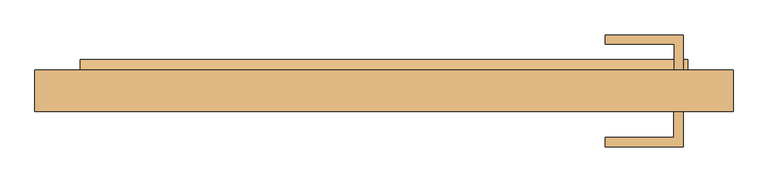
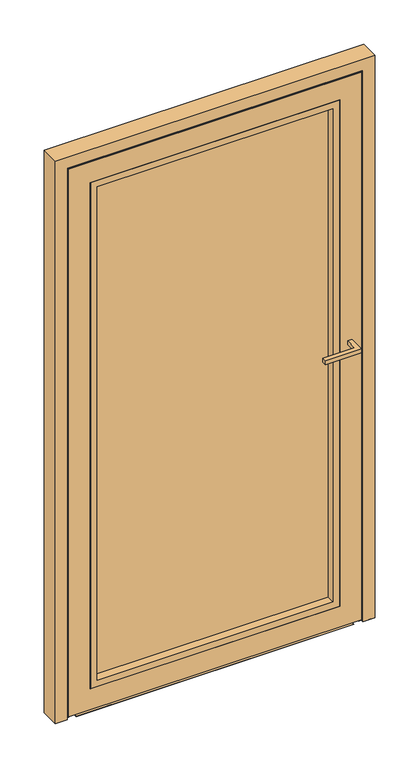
"""IFC4 building model written with IfcOpenShell, lengths in millimetres: door geometry, Reynaers_CS 77_Door_Panel_Inward Opening_Single Vent_One Sided : Reynaers_CS 77_Door_Panel_Inward Opening_Single Vent_One Sided."""

from ifc_helpers import new_model, si_unit, point, frame, frame_2d, origin, place, context, project, spatial, polyline, circle_curve, trimmed, segment, composite_curve, outline, extrude, faceted_brep, source, transform, mapped, element, save


def door_6b7e9e11(model_context):
    return source(origin(), model_context, "Body", "SolidModel", [
        extrude(outline(polyline([(488.7934348, 42.5), (473.7934348, 42.5), (473.7934348, 85.0), (361.2934348, 85.0), (361.2934348, 100.0), (488.7934348, 100.0), (488.7934348, 42.5)])), frame((0.0, 0.0, 1062.5), z_axis=(0.0, 0.0, 1.0), x_axis=(1.0, 0.0, 0.0)), (0.0, 0.0, 1.0), 15.0),
        extrude(outline(polyline([(488.5, -25.5), (488.5, -83.0), (361.0, -83.0), (361.0, -68.0), (473.5, -68.0), (473.5, -25.5), (488.5, -25.5)])), frame((0.0, 0.0, 1062.5), z_axis=(0.0, 0.0, 1.0), x_axis=(1.0, 0.0, 0.0)), (0.0, 0.0, 1.0), 15.0),
        extrude(outline(polyline([(496.0, 42.5), (496.0, 39.5), (-496.0, 39.5), (-496.0, 42.5), (496.0, 42.5)])), frame((0.0, 0.0, 36.5), z_axis=(0.0, 0.0, 1.0), x_axis=(1.0, 0.0, 0.0)), (0.0, 0.0, 1.0), 2009.5),
        extrude(outline(polyline([(439.0, 4.5), (-439.0, 4.5), (-439.0, 39.5), (439.0, 39.5), (439.0, 4.5)])), frame((0.0, 0.0, 93.5), z_axis=(0.0, 0.0, 1.0), x_axis=(1.0, 0.0, 0.0)), (0.0, 0.0, 1.0), 1895.5),
        faceted_brep([(445.0, -25.5, 1995.0), (445.0, 39.1, 1995.0), (445.0, 39.1, 87.5), (445.0, -25.5, 87.5), (496.0, 39.1, 2046.0), (496.0, 39.1, 36.5), (-496.0, 39.1, 36.5), (-496.0, 39.1, 2046.0), (-445.0, 39.1, 1995.0), (-445.0, 39.1, 87.5), (-445.0, -25.5, 87.5), (-522.0, -25.5, 2072.0), (-522.0, -25.5, 10.5), (522.0, -25.5, 10.5), (522.0, -25.5, 2072.0), (-445.0, -25.5, 1995.0), (522.0, -21.5, 2072.0), (522.0, -21.5, 10.5), (-522.0, -21.5, 10.5), (-522.0, -21.5, 2072.0), (-507.0, -21.5, 2057.0), (-507.0, -21.5, 25.5), (507.0, -21.5, 25.5), (507.0, -21.5, 2057.0), (-507.0, 33.7, 25.5), (-507.0, 33.7, 2057.0), (507.0, 33.7, 25.5), (507.0, 33.7, 2057.0), (-496.0, 33.7, 2046.0), (-496.0, 33.7, 36.5), (496.0, 33.7, 36.5), (496.0, 33.7, 2046.0)], [[[0, 1, 2, 3]], [[4, 5, 6, 7], [8, 9, 2, 1]], [[3, 2, 9, 10]], [[11, 12, 13, 14], [0, 3, 10, 15]], [[16, 14, 13, 17]], [[17, 13, 12, 18]], [[16, 17, 18, 19], [20, 21, 22, 23]], [[10, 9, 8, 15]], [[18, 12, 11, 19]], [[24, 21, 20, 25]], [[26, 22, 21, 24]], [[27, 23, 22, 26]], [[27, 26, 24, 25], [28, 29, 30, 31]], [[4, 31, 30, 5]], [[5, 30, 29, 6]], [[6, 29, 28, 7]], [[15, 8, 1, 0]], [[19, 11, 14, 16]], [[20, 23, 27, 25]], [[7, 28, 31, 4]]]),
        faceted_brep([(420.0, -25.5, 1970.0), (420.0, 4.5, 1970.0), (420.0, 4.5, 112.5), (420.0, -25.5, 112.5), (444.0, 4.5, 1994.0), (444.0, 4.5, 88.5), (-444.0, 4.5, 88.5), (-444.0, 4.5, 1994.0), (-420.0, 4.5, 1970.0), (-420.0, 4.5, 112.5), (-420.0, -25.5, 112.5), (-444.0, -25.5, 1994.0), (-444.0, -25.5, 88.5), (444.0, -25.5, 88.5), (444.0, -25.5, 1994.0), (-420.0, -25.5, 1970.0)], [[[0, 1, 2, 3]], [[4, 5, 6, 7], [8, 9, 2, 1]], [[3, 2, 9, 10]], [[11, 12, 13, 14], [0, 3, 10, 15]], [[4, 14, 13, 5]], [[5, 13, 12, 6]], [[10, 9, 8, 15]], [[6, 12, 11, 7]], [[15, 8, 1, 0]], [[7, 11, 14, 4]]]),
        faceted_brep([(-502.0, 38.7, 0.0), (-517.0, 38.7, 0.0), (-517.0, -15.7, 0.0), (-528.0, -15.7, 0.0), (-528.0, -25.5, 0.0), (-570.0, -25.5, 0.0), (-570.0, 42.5, 0.0), (-502.0, 42.5, 0.0), (-502.0, 38.7, 2052.0), (502.0, 38.7, 2052.0), (502.0, 38.7, 0.0), (517.0, 38.7, 0.0), (517.0, 38.7, 2067.0), (-517.0, 38.7, 2067.0), (-517.0, -15.7, 2067.0), (517.0, -15.7, 2067.0), (517.0, -15.7, 0.0), (528.0, -15.7, 0.0), (528.0, -15.7, 2078.0), (-528.0, -15.7, 2078.0), (-528.0, -25.5, 2078.0), (528.0, -25.5, 2078.0), (528.0, -25.5, 0.0), (570.0, -25.5, 0.0), (570.0, -25.5, 2120.0), (-570.0, -25.5, 2120.0), (-570.0, 42.5, 2120.0), (570.0, 42.5, 2120.0), (570.0, 42.5, 0.0), (502.0, 42.5, 0.0), (502.0, 42.5, 2052.0), (-502.0, 42.5, 2052.0)], [[[0, 1, 2, 3, 4, 5, 6, 7]], [[1, 0, 8, 9, 10, 11, 12, 13]], [[2, 1, 13, 14]], [[3, 2, 14, 15, 16, 17, 18, 19]], [[4, 3, 19, 20]], [[5, 4, 20, 21, 22, 23, 24, 25]], [[6, 5, 25, 26]], [[7, 6, 26, 27, 28, 29, 30, 31]], [[0, 7, 31, 8]], [[9, 30, 29, 10]], [[10, 29, 28, 23, 22, 17, 16, 11]], [[15, 12, 11, 16]], [[27, 24, 23, 28]], [[21, 18, 17, 22]], [[26, 25, 24, 27]], [[8, 31, 30, 9]], [[14, 13, 12, 15]], [[20, 19, 18, 21]]]),
        extrude(outline(polyline([(-25.5, 2.3043744), (-16.75, 3.0699002), (-16.75, 12.0), (28.4892099, 12.0), (34.6918048, 19.3919648), (42.45, 13.9596181), (42.45, 1.0), (-25.5, 1.0), (-25.5, 2.3043744)])), frame((550.0, 0.0, 0.0), z_axis=(1.0, 0.0, 0.0), x_axis=(0.0, 1.0, 0.0)), (0.0, 0.0, 1.0), 20.0),
        extrude(outline(polyline([(-25.5, 2.3043744), (-16.75, 3.0699002), (-16.75, 12.0), (28.4892099, 12.0), (34.6918048, 19.3919648), (42.45, 13.9596181), (42.45, 1.0), (-25.5, 1.0), (-25.5, 2.3043744)])), frame((-496.0, 0.0, 0.0), z_axis=(1.0, 0.0, 0.0), x_axis=(0.0, 1.0, 0.0)), (0.0, 0.0, 1.0), 992.0),
        extrude(outline(composite_curve([segment(polyline([(42.5, 36.9133906), (42.5, 38.6692887), (59.5, 32.4817947), (59.5, 23.8999932), (32.5209002, 23.8999932)]), True, "CONTINUOUS"), segment(trimmed(circle_curve(frame_2d((32.1434432, 20.5338193)), 3.3872704), [point((32.5209002, 23.8999932))], [point((31.2743396, 17.259944))], False, "CARTESIAN"), True, "CONTINUOUS"), segment(trimmed(circle_curve(frame_2d((33.8121384, 25.7049218)), 8.8180539), [point((31.2743396, 17.259944))], [point((26.4818662, 20.8033727))], False, "CARTESIAN"), True, "CONTINUOUS"), segment(trimmed(circle_curve(frame_2d((18.1737753, 13.6442063)), 10.9671344), [point((26.4818662, 20.8033727))], [point((21.95, 23.9407186))], True, "CARTESIAN"), True, "CONTINUOUS"), segment(polyline([(21.95, 23.9407186), (21.95, 28.2999932), (31.75, 28.2999932), (31.75, 25.2999932), (33.7, 25.2999932), (33.7, 34.5554378), (42.5, 36.9133906)]), True, "CONTINUOUS")], self_intersect=False)), frame((-496.0, 0.0, 0.0), z_axis=(1.0, 0.0, 0.0), x_axis=(0.0, 1.0, 0.0)), (0.0, 0.0, 1.0), 992.0),
    ])


if __name__ == "__main__":
    model = new_model("IFC4")
    model_context = context("Model", 3, world=origin())
    ifc_project = project(units=[si_unit("LENGTHUNIT", "METRE", prefix="MILLI")], contexts=[model_context])
    site = spatial("IfcSite", under=ifc_project)
    building = spatial("IfcBuilding", under=site)
    placement = place(None, origin())
    door_shape = door_6b7e9e11(model_context)
    element("IfcDoor", 1, ObjectType="Reynaers_CS 77_Door_Panel_Inward Opening_Single Vent_One Sided : Reynaers_CS 77_Door_Panel_Inward Opening_Single Vent_One Sided", at=placement, inside=building, context=model_context, shape_type="MappedRepresentation", body=[
        mapped(door_shape, transform((0.0, 0.0, 0.0), x_axis=(1.0, 0.0, 0.0), y_axis=(0.0, 1.0, 0.0), z_axis=(0.0, 0.0, 1.0))),
    ])
    save(model, "model.ifc")
